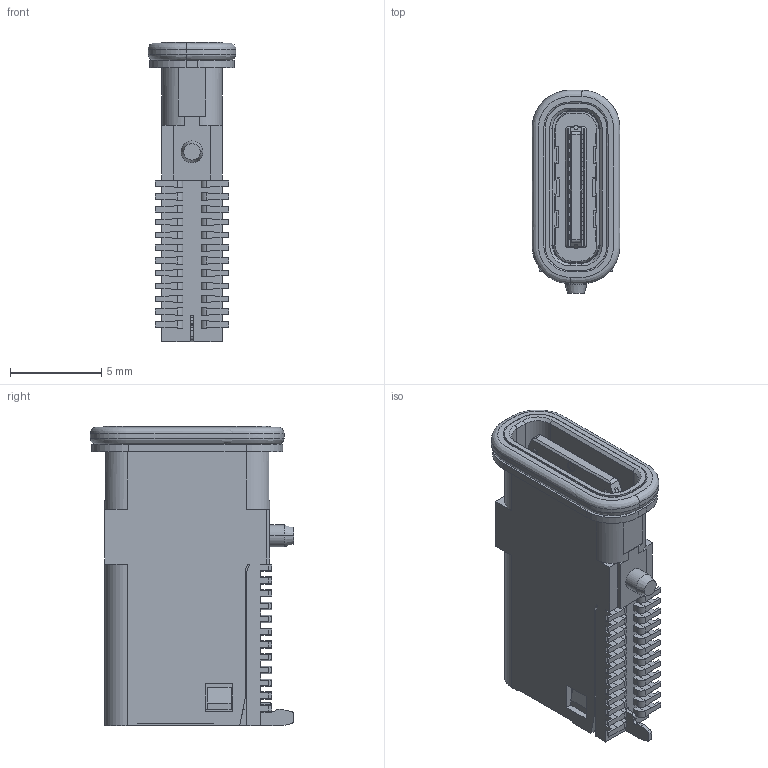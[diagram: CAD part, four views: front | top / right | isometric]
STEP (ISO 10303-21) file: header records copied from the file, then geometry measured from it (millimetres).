
FILE_DESCRIPTION (( 'STEP AP203' ), '1' );
FILE_NAME ('U5501-24PN16.4L.STEP', '2026-10-22T06:08:07', ( '' ), ( '' ), 'SwSTEP 2.0', 'SolidWorks 2024', '' );
FILE_SCHEMA (( 'CONFIG_CONTROL_DESIGN' ));
Length unit declared in the file: millimetre
Products named in the file (1): U5501-24PN16.4L
Bounding box: 4.81 x 11.12 x 16.41 mm (x, y, z)
Volume: 391.9 mm3; surface area: 1210.7 mm2
Topology: 2 solids, 3 shells, 1025 faces, 2945 edges, 1915 vertices
Faces by surface type: plane 812, cylinder 147, bspline 37, cone 29
Entity records: 36590 total; most frequent: CARTESIAN_POINT 9647, ORIENTED_EDGE 5890, DIRECTION 5140, EDGE_CURVE 2945, VECTOR 2448, LINE 2448, VERTEX_POINT 1915, AXIS2_PLACEMENT_3D 1346
